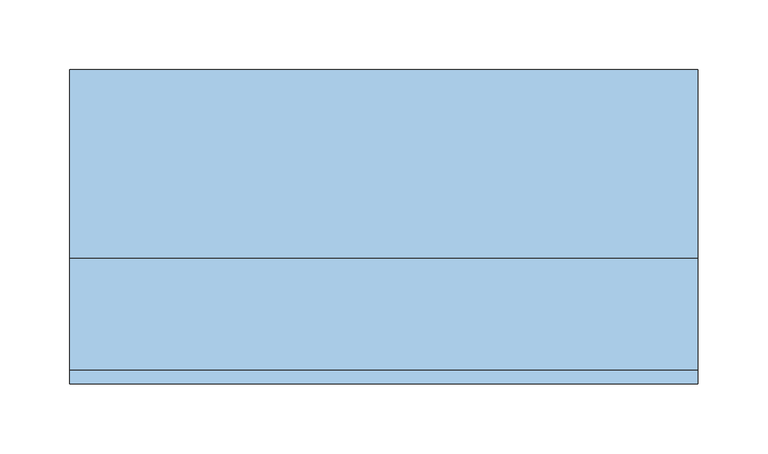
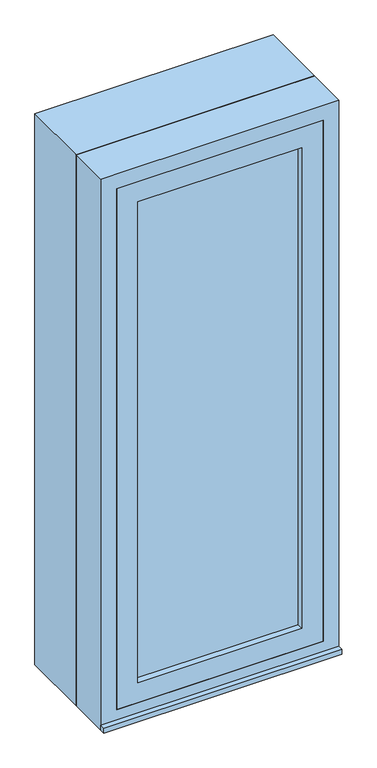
"""IFC4 building model written with IfcOpenShell, lengths in millimetres: window geometry, 窓-開き-内付 : AW-1' w0450 h1100."""

from ifc_helpers import new_model, si_unit, frame, origin, place, context, project, spatial, polyline, outline, extrude, source, transform, mapped, element, save


def window_5dc29a3f(model_context):
    return source(origin(), model_context, "Body", "SweptSolid", [
        extrude(outline(polyline([(225.0, -110.0), (-225.0, -110.0), (-225.0, -100.0), (225.0, -100.0), (225.0, -110.0)])), frame((0.0, 0.0, 1200.0), z_axis=(0.0, 0.0, 1.0), x_axis=(1.0, 0.0, 0.0)), (0.0, 0.0, 1.0), 10.0),
        extrude(outline(polyline([(1200.0, 225.0), (2300.0, 225.0), (2300.0, -225.0), (1200.0, -225.0), (1200.0, 225.0)]), holes=[polyline([(1220.0, 205.0), (1220.0, -205.0), (2280.0, -205.0), (2280.0, 205.0), (1220.0, 205.0)])]), frame((0.0, -20.0, 0.0), z_axis=(0.0, 1.0, 0.0), x_axis=(0.0, 0.0, 1.0)), (0.0, 0.0, 1.0), 135.0),
        extrude(outline(polyline([(1200.0, -225.0), (1200.0, 225.0), (2300.0, 225.0), (2300.0, -225.0), (1200.0, -225.0)]), holes=[polyline([(1230.0, -195.0), (2270.0, -195.0), (2270.0, 195.0), (1230.0, 195.0), (1230.0, -195.0)])]), frame((0.0, -100.0, 0.0), z_axis=(0.0, 1.0, 0.0), x_axis=(0.0, 0.0, 1.0)), (0.0, 0.0, 1.0), 80.0),
        extrude(outline(polyline([(155.0, -82.5), (155.0, -87.5), (-155.0, -87.5), (-155.0, -82.5), (155.0, -82.5)])), frame((0.0, 0.0, 1270.0), z_axis=(0.0, 0.0, 1.0), x_axis=(1.0, 0.0, 0.0)), (0.0, 0.0, 1.0), 960.0),
        extrude(outline(polyline([(1230.0, -195.0), (1230.0, 195.0), (2270.0, 195.0), (2270.0, -195.0), (1230.0, -195.0)]), holes=[polyline([(1270.0, -155.0), (2230.0, -155.0), (2230.0, 155.0), (1270.0, 155.0), (1270.0, -155.0)])]), frame((0.0, -100.0, 0.0), z_axis=(0.0, 1.0, 0.0), x_axis=(0.0, 0.0, 1.0)), (0.0, 0.0, 1.0), 30.0),
    ])


if __name__ == "__main__":
    model = new_model("IFC4")
    model_context = context("Model", 3, world=origin())
    ifc_project = project(units=[si_unit("LENGTHUNIT", "METRE", prefix="MILLI")], contexts=[model_context])
    site = spatial("IfcSite", under=ifc_project)
    building = spatial("IfcBuilding", under=site)
    placement = place(None, origin())
    window_shape = window_5dc29a3f(model_context)
    element("IfcWindow", 1, ObjectType="窓-開き-内付 : AW-1' w0450 h1100", at=placement, inside=building, context=model_context, shape_type="MappedRepresentation", body=[
        mapped(window_shape, transform((0.0, 0.0, 0.0), x_axis=(1.0, 0.0, 0.0), y_axis=(0.0, 1.0, 0.0), z_axis=(0.0, 0.0, 1.0))),
    ])
    save(model, "model.ifc")
